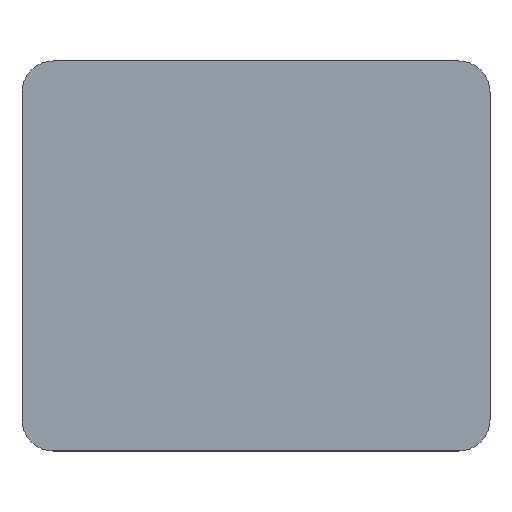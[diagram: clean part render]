
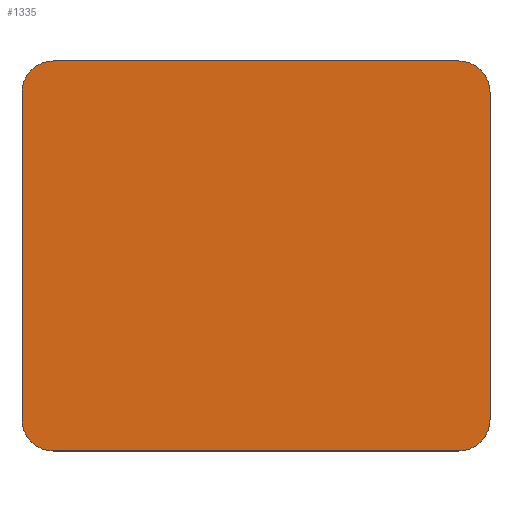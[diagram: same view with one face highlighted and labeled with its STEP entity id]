
A CAD part, top view. The second image highlights one B-rep face of the part: STEP entity #1335.
In plain terms, the highlighted planar face has unit normal (0, 0, 1) as drawn and (1, 0, 0) by its records, which use the part's own axes.
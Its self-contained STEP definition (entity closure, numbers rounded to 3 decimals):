
#109=FACE_OUTER_BOUND('',#184,.T.);
#184=EDGE_LOOP('',(#1060,#1061,#1062,#1063,#1064,#1065,#1066,#1067));
#253=CIRCLE('',#1451,4.);
#255=CIRCLE('',#1455,4.);
#274=CIRCLE('',#1507,4.);
#275=CIRCLE('',#1508,4.);
#320=LINE('',#2101,#448);
#324=LINE('',#2113,#452);
#377=LINE('',#2259,#505);
#378=LINE('',#2261,#506);
#448=VECTOR('',#1670,10.);
#452=VECTOR('',#1682,10.);
#505=VECTOR('',#1837,10.);
#506=VECTOR('',#1840,10.);
#600=VERTEX_POINT('',#2088);
#603=VERTEX_POINT('',#2093);
#605=VERTEX_POINT('',#2098);
#606=VERTEX_POINT('',#2103);
#609=VERTEX_POINT('',#2110);
#649=VERTEX_POINT('',#2255);
#650=VERTEX_POINT('',#2256);
#651=VERTEX_POINT('',#2258);
#731=EDGE_CURVE('',#603,#600,#253,.T.);
#734=EDGE_CURVE('',#600,#605,#320,.T.);
#737=EDGE_CURVE('',#605,#606,#255,.T.);
#740=EDGE_CURVE('',#606,#609,#324,.T.);
#811=EDGE_CURVE('',#649,#650,#274,.T.);
#812=EDGE_CURVE('',#651,#649,#377,.T.);
#813=EDGE_CURVE('',#609,#651,#275,.T.);
#814=EDGE_CURVE('',#650,#603,#378,.T.);
#1060=ORIENTED_EDGE('',*,*,#811,.F.);
#1061=ORIENTED_EDGE('',*,*,#812,.F.);
#1062=ORIENTED_EDGE('',*,*,#813,.F.);
#1063=ORIENTED_EDGE('',*,*,#740,.F.);
#1064=ORIENTED_EDGE('',*,*,#737,.F.);
#1065=ORIENTED_EDGE('',*,*,#734,.F.);
#1066=ORIENTED_EDGE('',*,*,#731,.F.);
#1067=ORIENTED_EDGE('',*,*,#814,.F.);
#1272=PLANE('',#1506);
#1335=ADVANCED_FACE('',(#109),#1272,.F.);
#1451=AXIS2_PLACEMENT_3D('',#2095,#1664,#1665);
#1455=AXIS2_PLACEMENT_3D('',#2107,#1676,#1677);
#1506=AXIS2_PLACEMENT_3D('',#2254,#1833,#1834);
#1507=AXIS2_PLACEMENT_3D('',#2257,#1835,#1836);
#1508=AXIS2_PLACEMENT_3D('',#2260,#1838,#1839);
#1664=DIRECTION('center_axis',(-1.,0.,0.));
#1665=DIRECTION('ref_axis',(0.,-0.707,-0.707));
#1670=DIRECTION('',(0.,0.,1.));
#1676=DIRECTION('center_axis',(-1.,0.,0.));
#1677=DIRECTION('ref_axis',(0.,-0.707,0.707));
#1682=DIRECTION('',(0.,1.,0.));
#1833=DIRECTION('center_axis',(-1.,0.,0.));
#1834=DIRECTION('ref_axis',(0.,0.,-1.));
#1835=DIRECTION('center_axis',(-1.,0.,0.));
#1836=DIRECTION('ref_axis',(0.,0.707,-0.707));
#1837=DIRECTION('',(0.,0.,-1.));
#1838=DIRECTION('center_axis',(-1.,0.,0.));
#1839=DIRECTION('ref_axis',(0.,0.707,0.707));
#1840=DIRECTION('',(0.,-1.,0.));
#2088=CARTESIAN_POINT('',(4.,0.,-56.));
#2093=CARTESIAN_POINT('',(4.,4.,-60.));
#2095=CARTESIAN_POINT('Origin',(4.,4.,-56.));
#2098=CARTESIAN_POINT('',(4.,0.,-4.));
#2101=CARTESIAN_POINT('',(4.,0.,0.));
#2103=CARTESIAN_POINT('',(4.,4.,0.));
#2107=CARTESIAN_POINT('Origin',(4.,4.,-4.));
#2110=CARTESIAN_POINT('',(4.,46.,0.));
#2113=CARTESIAN_POINT('',(4.,50.,0.));
#2254=CARTESIAN_POINT('Origin',(4.,50.,0.));
#2255=CARTESIAN_POINT('',(4.,50.,-56.));
#2256=CARTESIAN_POINT('',(4.,46.,-60.));
#2257=CARTESIAN_POINT('Origin',(4.,46.,-56.));
#2258=CARTESIAN_POINT('',(4.,50.,-4.));
#2259=CARTESIAN_POINT('',(4.,50.,-30.));
#2260=CARTESIAN_POINT('Origin',(4.,46.,-4.));
#2261=CARTESIAN_POINT('',(4.,25.,-60.));
